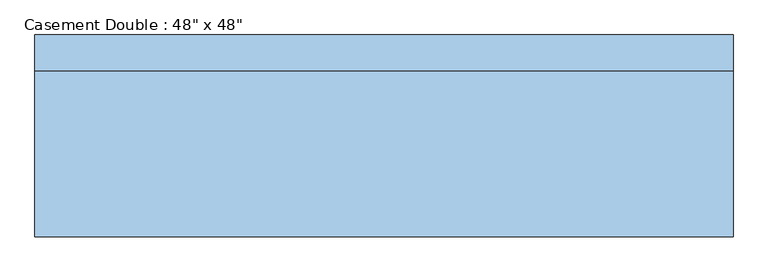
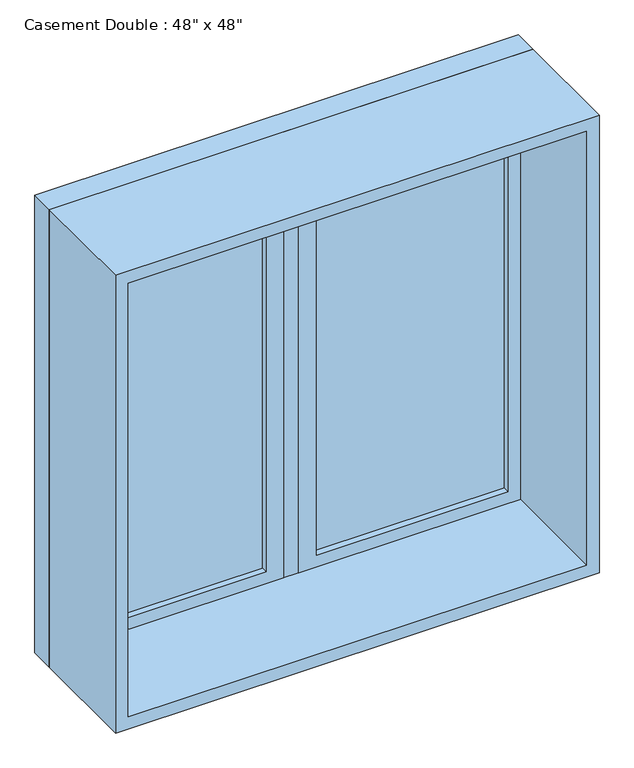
"""IFC4 building model written with IfcOpenShell, lengths in millimetres: window geometry."""

from ifc_helpers import new_model, si_unit, frame, origin, place, context, project, spatial, polyline, outline, extrude, source, transform, mapped, element, save


def window_75435c65(model_context):
    return source(origin(), model_context, "Body", "SweptSolid", [
        extrude(outline(polyline([(63.5, 160.3375), (546.1, 160.3375), (546.1, 147.6375), (63.5, 147.6375), (63.5, 160.3375)])), frame((0.0, 0.0, 977.9), z_axis=(0.0, 0.0, 1.0), x_axis=(1.0, 0.0, 0.0)), (0.0, 0.0, 1.0), 1092.2),
        extrude(outline(polyline([(2114.55, 19.05), (933.45, 19.05), (933.45, 590.55), (2114.55, 590.55), (2114.55, 19.05)]), holes=[polyline([(2070.1, 63.5), (2070.1, 546.1), (977.9, 546.1), (977.9, 63.5), (2070.1, 63.5)])]), frame((0.0, 131.7625, 0.0), z_axis=(0.0, 1.0, 0.0), x_axis=(0.0, 0.0, 1.0)), (0.0, 0.0, 1.0), 44.45),
        extrude(outline(polyline([(-63.5, 147.6375), (-546.1, 147.6375), (-546.1, 160.3375), (-63.5, 160.3375), (-63.5, 147.6375)])), frame((0.0, 0.0, 977.9), z_axis=(0.0, 0.0, 1.0), x_axis=(1.0, 0.0, 0.0)), (0.0, 0.0, 1.0), 1092.2),
        extrude(outline(polyline([(2114.55, -590.55), (933.45, -590.55), (933.45, -19.05), (2114.55, -19.05), (2114.55, -590.55)]), holes=[polyline([(2070.1, -546.1), (2070.1, -63.5), (977.9, -63.5), (977.9, -546.1), (2070.1, -546.1)])]), frame((0.0, 131.7625, 0.0), z_axis=(0.0, 1.0, 0.0), x_axis=(0.0, 0.0, 1.0)), (0.0, 0.0, 1.0), 44.45),
        extrude(outline(polyline([(2133.6, -609.6), (914.4, -609.6), (914.4, 609.6), (2133.6, 609.6), (2133.6, -609.6)]), holes=[polyline([(2101.85, -577.85), (2101.85, 577.85), (946.15, 577.85), (946.15, -577.85), (2101.85, -577.85)])]), frame((0.0, -157.1625, 0.0), z_axis=(0.0, 1.0, 0.0), x_axis=(0.0, 0.0, 1.0)), (0.0, 0.0, 1.0), 288.925),
        extrude(outline(polyline([(2133.6, 609.6), (2133.6, -609.6), (914.4, -609.6), (914.4, 609.6), (2133.6, 609.6)]), holes=[polyline([(2114.55, 590.55), (933.45, 590.55), (933.45, -590.55), (2114.55, -590.55), (2114.55, 590.55)])]), frame((0.0, 131.7625, 0.0), z_axis=(0.0, 1.0, 0.0), x_axis=(0.0, 0.0, 1.0)), (0.0, 0.0, 1.0), 63.5),
        extrude(outline(polyline([(19.05, 131.7625), (-19.05, 131.7625), (-19.05, 195.2625), (19.05, 195.2625), (19.05, 131.7625)])), frame((0.0, 0.0, 933.45), z_axis=(0.0, 0.0, 1.0), x_axis=(1.0, 0.0, 0.0)), (0.0, 0.0, 1.0), 1181.1),
    ])


if __name__ == "__main__":
    model = new_model("IFC4")
    model_context = context("Model", 3, world=origin())
    ifc_project = project(units=[si_unit("LENGTHUNIT", "METRE", prefix="MILLI")], contexts=[model_context])
    site = spatial("IfcSite", under=ifc_project)
    building = spatial("IfcBuilding", under=site)
    placement = place(None, origin())
    window_shape = window_75435c65(model_context)
    element("IfcWindow", 1, ObjectType="Casement Double : 48\" x 48\"", at=placement, inside=building, context=model_context, shape_type="MappedRepresentation", body=[
        mapped(window_shape, transform((0.0, 0.0, 0.0), x_axis=(1.0, 0.0, 0.0), y_axis=(0.0, 1.0, 0.0), z_axis=(0.0, 0.0, 1.0))),
    ])
    save(model, "model.ifc")
